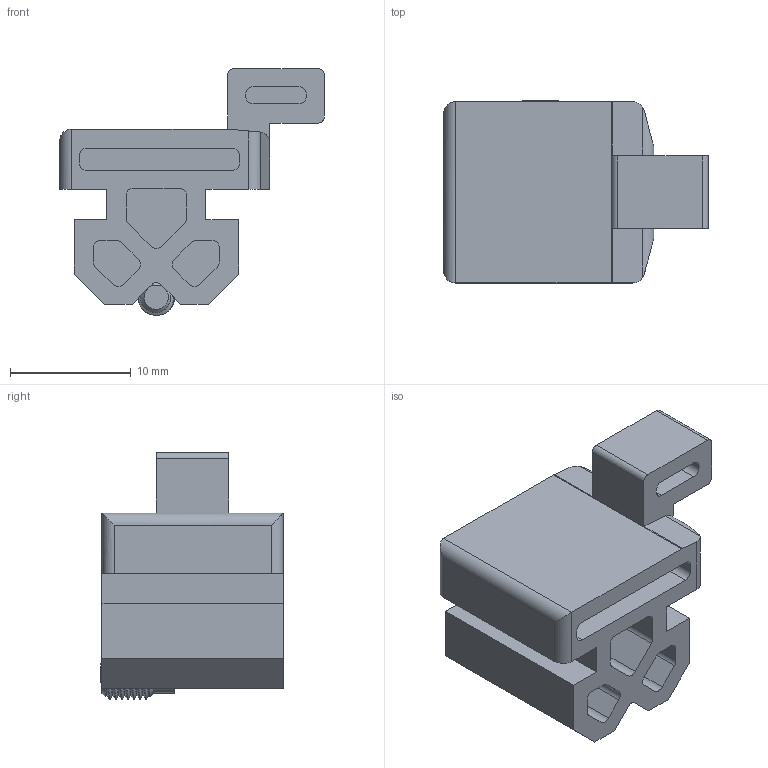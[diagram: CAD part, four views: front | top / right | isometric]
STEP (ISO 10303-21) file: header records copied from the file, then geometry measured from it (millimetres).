
FILE_DESCRIPTION(/* description */ (''),/* implementation_level */ '2;1');
FILE_NAME(/* name */ '22.1184 GUIDE FOR SLIDING DOOR 30 V.stp',/* time_stamp */ '2024-12-20T11:44:50-05:00',/* author */ ('amoles'),/* organization */ (''),/* preprocessor_version */ 'ST-DEVELOPER v19.2',/* originating_system */ 'Autodesk Inventor 2024',/* authorisation */ '');
FILE_SCHEMA (('AUTOMOTIVE_DESIGN { 1 0 10303 214 3 1 1 }'));
Products named in the file (3): 22.1184  GUIDE FOR SLIDING DOOR 30 V; 22.1184_1; 92905A602_Alloy Steel Extended-Tip Set Screw
Assembly tree (2 placements, depth 2):
  22.1184  GUIDE FOR SLIDING DOOR 30 V
    22.1184_1
    92905A602_Alloy Steel Extended-Tip Set Screw
Bounding box: 21.9 x 15.1 x 20.42 mm (x, y, z)
Volume: 2250.3 mm3; surface area: 2673.3 mm2
Topology: 2 solids, 2 shells, 190 faces, 508 edges, 332 vertices
Faces by surface type: plane 100, cylinder 79, cone 9, bspline 2
Full cylindrical faces by diameter (mm): 2 x1, 2.35 x7, 3 x6
Entity records: 7177 total; most frequent: CARTESIAN_POINT 2308, ORIENTED_EDGE 1014, DIRECTION 984, EDGE_CURVE 507, AXIS2_PLACEMENT_3D 334, VERTEX_POINT 332, LINE 316, VECTOR 316
